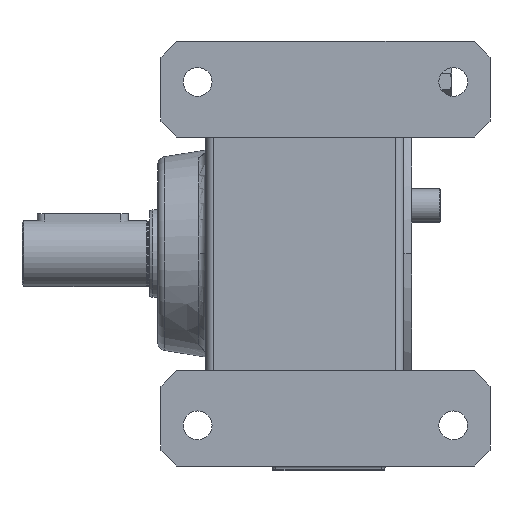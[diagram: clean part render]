
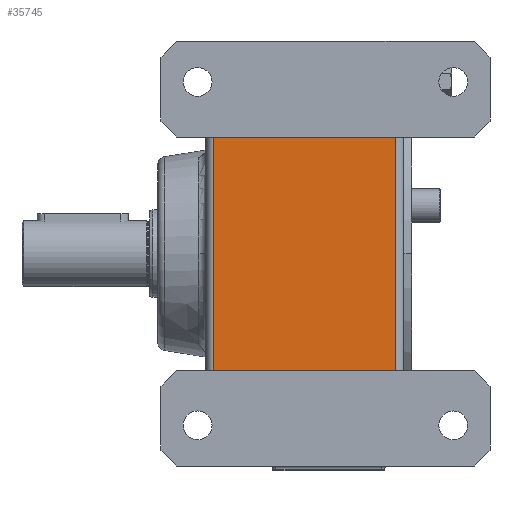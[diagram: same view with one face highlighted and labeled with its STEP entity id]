
A CAD part, front view. The second image highlights one B-rep face of the part: STEP entity #35745.
In plain terms, the highlighted planar face has unit normal (0, -1, 0).
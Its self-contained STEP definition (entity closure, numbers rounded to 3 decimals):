
#7352 = EDGE_LOOP ( 'NONE', ( #27101, #27103, #27102, #27104 ) ) ;
#11822 = CARTESIAN_POINT ( 'NONE',  ( 5., -99., 73. ) ) ;
#11823 = CARTESIAN_POINT ( 'NONE',  ( 119., -99., 73. ) ) ;
#11825 = CARTESIAN_POINT ( 'NONE',  ( 119., -99., -73. ) ) ;
#11835 = CARTESIAN_POINT ( 'NONE',  ( 5., -99., -73. ) ) ;
#16132 = LINE ( 'NONE', #16133, #46617 ) ;
#16133 = CARTESIAN_POINT ( 'NONE',  ( 5., -99., -73. ) ) ;
#16134 = DIRECTION ( 'NONE',  ( 0., 0., -1. ) ) ;
#16135 = LINE ( 'NONE', #16136, #46618 ) ;
#16136 = CARTESIAN_POINT ( 'NONE',  ( 160.324, -99., 73. ) ) ;
#16137 = DIRECTION ( 'NONE',  ( 1., 0., 0. ) ) ;
#16138 = LINE ( 'NONE', #16139, #46620 ) ;
#16139 = CARTESIAN_POINT ( 'NONE',  ( 160.324, -99., -73. ) ) ;
#16140 = DIRECTION ( 'NONE',  ( -1., 0., 0. ) ) ;
#16141 = LINE ( 'NONE', #16142, #46621 ) ;
#16142 = CARTESIAN_POINT ( 'NONE',  ( 119., -99., 73. ) ) ;
#16143 = DIRECTION ( 'NONE',  ( 0., 0., 1. ) ) ;
#27101 = ORIENTED_EDGE ( 'NONE', *, *, #36582, .F. ) ;
#27102 = ORIENTED_EDGE ( 'NONE', *, *, #36583, .F. ) ;
#27103 = ORIENTED_EDGE ( 'NONE', *, *, #36581, .T. ) ;
#27104 = ORIENTED_EDGE ( 'NONE', *, *, #36584, .T. ) ;
#35745 = ADVANCED_FACE ( 'NONE', ( #45529 ), #48261, .F. ) ;
#36581 = EDGE_CURVE ( 'NONE', #43101, #43114, #16132, .T. ) ;
#36582 = EDGE_CURVE ( 'NONE', #43101, #43102, #16135, .T. ) ;
#36583 = EDGE_CURVE ( 'NONE', #43104, #43114, #16138, .T. ) ;
#36584 = EDGE_CURVE ( 'NONE', #43104, #43102, #16141, .T. ) ;
#43101 = VERTEX_POINT ( 'NONE', #11822 ) ;
#43102 = VERTEX_POINT ( 'NONE', #11823 ) ;
#43104 = VERTEX_POINT ( 'NONE', #11825 ) ;
#43114 = VERTEX_POINT ( 'NONE', #11835 ) ;
#45529 = FACE_OUTER_BOUND ( 'NONE', #7352, .T. ) ;
#45532 = AXIS2_PLACEMENT_3D ( 'NONE', #48262, #48263, #48264 ) ;
#46617 = VECTOR ( 'NONE', #16134, 1000. ) ;
#46618 = VECTOR ( 'NONE', #16137, 1000. ) ;
#46620 = VECTOR ( 'NONE', #16140, 1000. ) ;
#46621 = VECTOR ( 'NONE', #16143, 1000. ) ;
#48261 = PLANE ( 'NONE',  #45532 ) ;
#48262 = CARTESIAN_POINT ( 'NONE',  ( 160.324, -99., 133. ) ) ;
#48263 = DIRECTION ( 'NONE',  ( 0., 1., 0. ) ) ;
#48264 = DIRECTION ( 'NONE',  ( 0., 0., 1. ) ) ;
